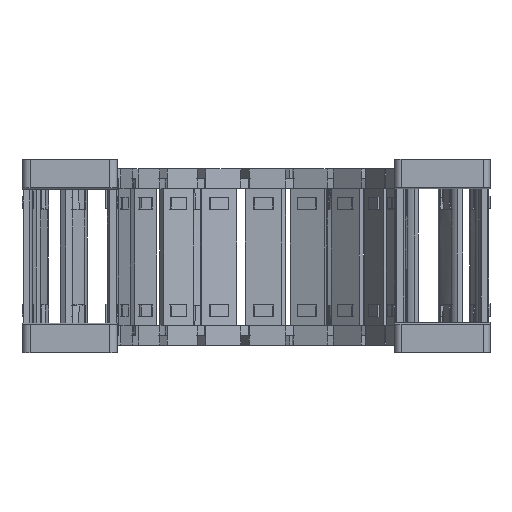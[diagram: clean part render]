
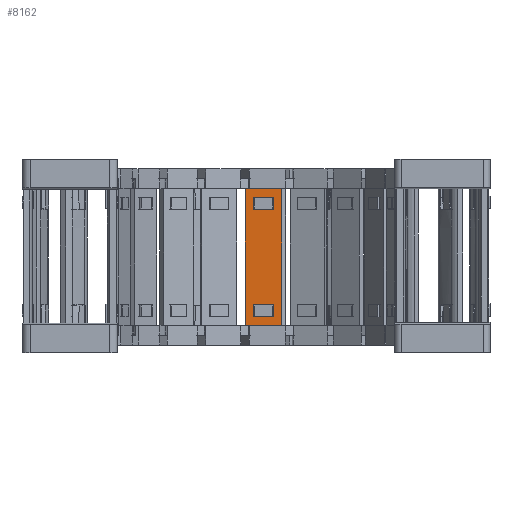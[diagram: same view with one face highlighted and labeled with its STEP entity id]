
A CAD part, top view. The second image highlights one B-rep face of the part: STEP entity #8162.
In plain terms, the highlighted planar face has unit normal (-0.044, 0, 0.999).
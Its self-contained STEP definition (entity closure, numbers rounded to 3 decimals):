
#8162=ADVANCED_FACE('',(#34153,#34154,#34155),#12009,.F.);
#12009=PLANE('',#94497);
#18798=LINE('',#136860,#28174);
#18852=LINE('',#137019,#28228);
#18917=LINE('',#137379,#28293);
#18918=LINE('',#137381,#28294);
#18922=LINE('',#137389,#28298);
#19015=LINE('',#137690,#28391);
#19049=LINE('',#137800,#28425);
#19098=LINE('',#138124,#28474);
#19102=LINE('',#138136,#28478);
#19113=LINE('',#138161,#28489);
#19117=LINE('',#138168,#28493);
#19119=LINE('',#138172,#28495);
#19124=LINE('',#138202,#28500);
#19128=LINE('',#138212,#28504);
#19133=LINE('',#138244,#28509);
#19134=LINE('',#138245,#28510);
#19135=LINE('',#138246,#28511);
#19136=LINE('',#138248,#28512);
#28174=VECTOR('',#107755,1.);
#28228=VECTOR('',#107845,1.);
#28293=VECTOR('',#108062,1.);
#28294=VECTOR('',#108065,1.);
#28298=VECTOR('',#108071,1.);
#28391=VECTOR('',#108280,1.);
#28425=VECTOR('',#108338,1.);
#28474=VECTOR('',#108521,1.);
#28478=VECTOR('',#108531,1.);
#28489=VECTOR('',#108552,1.);
#28493=VECTOR('',#108558,1.);
#28495=VECTOR('',#108562,1.);
#28500=VECTOR('',#108575,1.);
#28504=VECTOR('',#108585,1.);
#28509=VECTOR('',#108604,1.);
#28510=VECTOR('',#108605,1.);
#28511=VECTOR('',#108606,1.);
#28512=VECTOR('',#108607,1.);
#34153=FACE_BOUND('',#36376,.T.);
#34154=FACE_BOUND('',#36377,.T.);
#34155=FACE_BOUND('',#36378,.T.);
#36376=EDGE_LOOP('',(#50539,#50540,#50541,#50542,#50543,#50544));
#36377=EDGE_LOOP('',(#50545,#50546,#50547,#50548,#50549,#50550));
#36378=EDGE_LOOP('',(#50551,#50552,#50553,#50554,#50555,#50556));
#50539=ORIENTED_EDGE('',*,*,#81401,.T.);
#50540=ORIENTED_EDGE('',*,*,#81349,.F.);
#50541=ORIENTED_EDGE('',*,*,#81216,.F.);
#50542=ORIENTED_EDGE('',*,*,#81373,.F.);
#50543=ORIENTED_EDGE('',*,*,#80906,.F.);
#50544=ORIENTED_EDGE('',*,*,#81083,.F.);
#50545=ORIENTED_EDGE('',*,*,#81402,.F.);
#50546=ORIENTED_EDGE('',*,*,#81383,.T.);
#50547=ORIENTED_EDGE('',*,*,#81371,.T.);
#50548=ORIENTED_EDGE('',*,*,#81355,.F.);
#50549=ORIENTED_EDGE('',*,*,#81258,.F.);
#50550=ORIENTED_EDGE('',*,*,#81388,.F.);
#50551=ORIENTED_EDGE('',*,*,#81084,.F.);
#50552=ORIENTED_EDGE('',*,*,#81367,.T.);
#50553=ORIENTED_EDGE('',*,*,#81403,.T.);
#50554=ORIENTED_EDGE('',*,*,#81404,.F.);
#50555=ORIENTED_EDGE('',*,*,#81088,.F.);
#50556=ORIENTED_EDGE('',*,*,#80972,.F.);
#70000=VERTEX_POINT('',#136859);
#70001=VERTEX_POINT('',#136861);
#70027=VERTEX_POINT('',#136943);
#70053=VERTEX_POINT('',#137006);
#70118=VERTEX_POINT('',#137378);
#70119=VERTEX_POINT('',#137382);
#70122=VERTEX_POINT('',#137390);
#70209=VERTEX_POINT('',#137689);
#70210=VERTEX_POINT('',#137691);
#70230=VERTEX_POINT('',#137762);
#70244=VERTEX_POINT('',#137792);
#70296=VERTEX_POINT('',#138125);
#70301=VERTEX_POINT('',#138137);
#70309=VERTEX_POINT('',#138160);
#70312=VERTEX_POINT('',#138169);
#70318=VERTEX_POINT('',#138203);
#70320=VERTEX_POINT('',#138211);
#70325=VERTEX_POINT('',#138247);
#80906=EDGE_CURVE('',#70000,#70001,#18798,.T.);
#80972=EDGE_CURVE('',#70053,#70027,#18852,.T.);
#81083=EDGE_CURVE('',#70118,#70000,#18917,.T.);
#81084=EDGE_CURVE('',#70119,#70053,#18918,.T.);
#81088=EDGE_CURVE('',#70027,#70122,#18922,.T.);
#81216=EDGE_CURVE('',#70209,#70210,#19015,.T.);
#81258=EDGE_CURVE('',#70230,#70244,#19049,.T.);
#81349=EDGE_CURVE('',#70210,#70296,#19098,.T.);
#81355=EDGE_CURVE('',#70244,#70301,#19102,.T.);
#81367=EDGE_CURVE('',#70119,#70309,#19113,.T.);
#81371=EDGE_CURVE('',#70312,#70301,#19117,.T.);
#81373=EDGE_CURVE('',#70001,#70209,#19119,.T.);
#81383=EDGE_CURVE('',#70318,#70312,#19124,.T.);
#81388=EDGE_CURVE('',#70320,#70230,#19128,.T.);
#81401=EDGE_CURVE('',#70118,#70296,#19133,.T.);
#81402=EDGE_CURVE('',#70318,#70320,#19134,.T.);
#81403=EDGE_CURVE('',#70309,#70325,#19135,.T.);
#81404=EDGE_CURVE('',#70122,#70325,#19136,.T.);
#94497=AXIS2_PLACEMENT_3D('',#138249,#108608,#108609);
#107755=DIRECTION('',(0.999,0.,0.044));
#107845=DIRECTION('',(-0.999,0.,-0.044));
#108062=DIRECTION('',(0.999,0.,0.044));
#108065=DIRECTION('',(-0.999,0.,-0.044));
#108071=DIRECTION('',(-0.999,0.,-0.044));
#108280=DIRECTION('',(-0.999,0.,-0.044));
#108338=DIRECTION('',(0.999,0.,0.044));
#108521=DIRECTION('',(-0.999,0.,-0.044));
#108531=DIRECTION('',(0.999,0.,0.044));
#108552=DIRECTION('',(0.,-1.,0.));
#108558=DIRECTION('',(0.,-1.,0.));
#108562=DIRECTION('',(0.,-1.,0.));
#108575=DIRECTION('',(0.999,0.,0.044));
#108585=DIRECTION('',(0.999,0.,0.044));
#108604=DIRECTION('',(0.,-1.,0.));
#108605=DIRECTION('',(0.,-1.,0.));
#108606=DIRECTION('',(-0.999,0.,-0.044));
#108607=DIRECTION('',(0.,-1.,0.));
#108608=DIRECTION('',(0.044,0.,-0.999));
#108609=DIRECTION('',(0.999,0.,0.044));
#136859=CARTESIAN_POINT('',(402.05,134.434,711.867));
#136860=CARTESIAN_POINT('',(401.714,134.434,711.853));
#136861=CARTESIAN_POINT('',(412.104,134.434,712.306));
#136943=CARTESIAN_POINT('',(403.765,131.822,711.942));
#137006=CARTESIAN_POINT('',(409.453,131.822,712.191));
#137019=CARTESIAN_POINT('',(409.627,131.822,712.198));
#137378=CARTESIAN_POINT('',(401.114,134.434,711.827));
#137379=CARTESIAN_POINT('',(401.714,134.434,711.853));
#137381=CARTESIAN_POINT('',(409.627,131.822,712.198));
#137382=CARTESIAN_POINT('',(409.627,131.822,712.198));
#137389=CARTESIAN_POINT('',(409.627,131.822,712.198));
#137390=CARTESIAN_POINT('',(403.591,131.822,711.935));
#137689=CARTESIAN_POINT('',(412.104,92.934,712.306));
#137690=CARTESIAN_POINT('',(401.714,92.934,711.853));
#137691=CARTESIAN_POINT('',(402.05,92.934,711.867));
#137762=CARTESIAN_POINT('',(403.765,95.545,711.942));
#137792=CARTESIAN_POINT('',(409.453,95.545,712.191));
#137800=CARTESIAN_POINT('',(409.627,95.545,712.198));
#138124=CARTESIAN_POINT('',(401.714,92.934,711.853));
#138125=CARTESIAN_POINT('',(401.114,92.934,711.827));
#138136=CARTESIAN_POINT('',(409.627,95.545,712.198));
#138137=CARTESIAN_POINT('',(409.627,95.545,712.198));
#138160=CARTESIAN_POINT('',(409.627,128.15,712.198));
#138161=CARTESIAN_POINT('',(409.627,146.919,712.198));
#138168=CARTESIAN_POINT('',(409.627,80.448,712.198));
#138169=CARTESIAN_POINT('',(409.627,99.218,712.198));
#138172=CARTESIAN_POINT('',(412.104,66.448,712.306));
#138202=CARTESIAN_POINT('',(409.627,99.218,712.198));
#138203=CARTESIAN_POINT('',(403.591,99.218,711.935));
#138211=CARTESIAN_POINT('',(403.591,95.545,711.935));
#138212=CARTESIAN_POINT('',(409.627,95.545,712.198));
#138244=CARTESIAN_POINT('',(401.114,66.448,711.827));
#138245=CARTESIAN_POINT('',(403.591,80.448,711.935));
#138246=CARTESIAN_POINT('',(409.627,128.15,712.198));
#138247=CARTESIAN_POINT('',(403.591,128.15,711.935));
#138248=CARTESIAN_POINT('',(403.591,146.919,711.935));
#138249=CARTESIAN_POINT('',(399.637,66.448,711.762));
